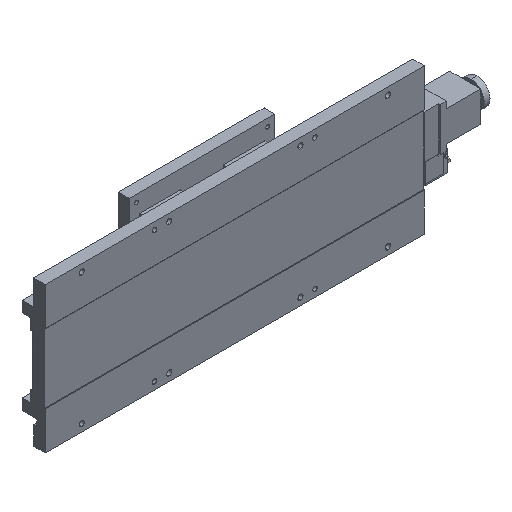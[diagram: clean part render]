
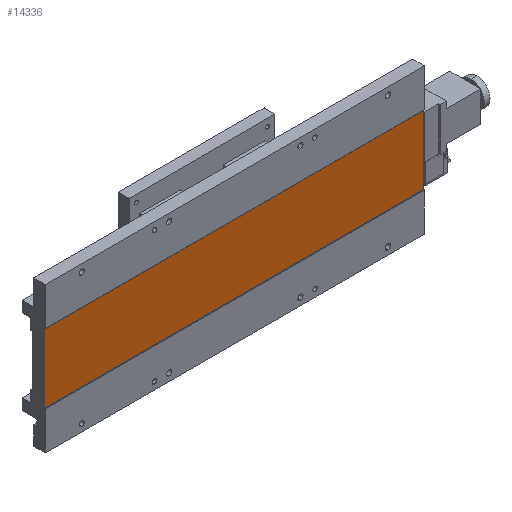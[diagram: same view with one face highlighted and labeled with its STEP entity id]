
A CAD part, isometric view. The second image highlights one B-rep face of the part: STEP entity #14336.
In plain terms, the highlighted planar face has unit normal (0, -1, 0).
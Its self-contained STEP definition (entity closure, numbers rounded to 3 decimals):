
#29 = ORIENTED_EDGE ( 'NONE', *, *, #164, .F. ) ;
#46 = VERTEX_POINT ( 'NONE', #5367 ) ;
#160 = EDGE_LOOP ( 'NONE', ( #14338, #29, #14343, #161 ) ) ;
#161 = ORIENTED_EDGE ( 'NONE', *, *, #14341, .T. ) ;
#164 = EDGE_CURVE ( 'NONE', #46, #14377, #12708, .T. ) ;
#2752 = EDGE_CURVE ( 'NONE', #14345, #46, #8894, .T. ) ;
#5367 = CARTESIAN_POINT ( 'NONE',  ( 260., 1., -47.5 ) ) ;
#8891 = DIRECTION ( 'NONE',  ( 0., 0., -1. ) ) ;
#8892 = VECTOR ( 'NONE', #8891, 1000. ) ;
#8893 = CARTESIAN_POINT ( 'NONE',  ( 260., 1., 47.5 ) ) ;
#8894 = LINE ( 'NONE', #8893, #8892 ) ;
#9623 = CARTESIAN_POINT ( 'NONE',  ( -260., 1., 47.5 ) ) ;
#9624 = DIRECTION ( 'NONE',  ( 0., 0., -1. ) ) ;
#9625 = VECTOR ( 'NONE', #9624, 1000. ) ;
#9626 = CARTESIAN_POINT ( 'NONE',  ( -260., 1., 47.5 ) ) ;
#9627 = LINE ( 'NONE', #9626, #9625 ) ;
#9669 = CARTESIAN_POINT ( 'NONE',  ( 260., 1., 47.5 ) ) ;
#9671 = DIRECTION ( 'NONE',  ( -1., 0., 0. ) ) ;
#9672 = VECTOR ( 'NONE', #9671, 1000. ) ;
#9673 = CARTESIAN_POINT ( 'NONE',  ( 260., 1., 47.5 ) ) ;
#9674 = LINE ( 'NONE', #9673, #9672 ) ;
#9680 = DIRECTION ( 'NONE',  ( 0., 0., 1. ) ) ;
#9681 = DIRECTION ( 'NONE',  ( 0., 1., 0. ) ) ;
#9682 = CARTESIAN_POINT ( 'NONE',  ( 260., 1., 47.5 ) ) ;
#9683 = AXIS2_PLACEMENT_3D ( 'NONE', #9682, #9681, #9680 ) ;
#9684 = PLANE ( 'NONE',  #9683 ) ;
#9685 = FACE_OUTER_BOUND ( 'NONE', #160, .T. ) ;
#12699 = DIRECTION ( 'NONE',  ( -1., 0., 0. ) ) ;
#12706 = VECTOR ( 'NONE', #12699, 1000. ) ;
#12707 = CARTESIAN_POINT ( 'NONE',  ( 260., 1., -47.5 ) ) ;
#12708 = LINE ( 'NONE', #12707, #12706 ) ;
#13010 = CARTESIAN_POINT ( 'NONE',  ( -260., 1., -47.5 ) ) ;
#14333 = EDGE_CURVE ( 'NONE', #14334, #14377, #9627, .T. ) ;
#14334 = VERTEX_POINT ( 'NONE', #9623 ) ;
#14336 = ADVANCED_FACE ( 'NONE', ( #9685 ), #9684, .F. ) ;
#14338 = ORIENTED_EDGE ( 'NONE', *, *, #14333, .T. ) ;
#14341 = EDGE_CURVE ( 'NONE', #14345, #14334, #9674, .T. ) ;
#14343 = ORIENTED_EDGE ( 'NONE', *, *, #2752, .F. ) ;
#14345 = VERTEX_POINT ( 'NONE', #9669 ) ;
#14377 = VERTEX_POINT ( 'NONE', #13010 ) ;
